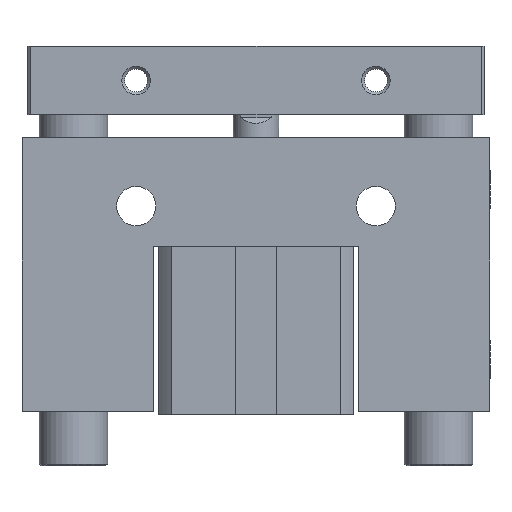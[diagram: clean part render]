
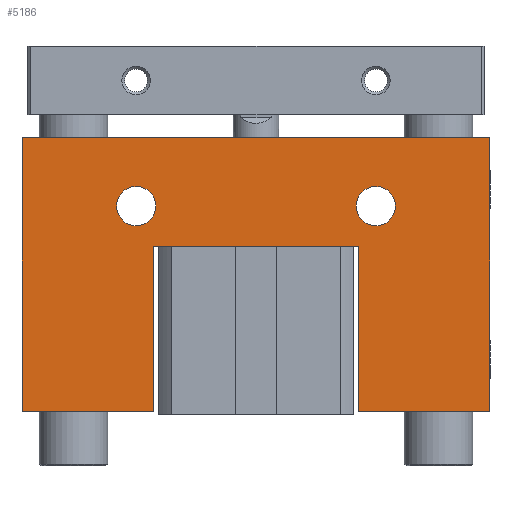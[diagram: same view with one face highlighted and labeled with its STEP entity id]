
A CAD part, front view. The second image highlights one B-rep face of the part: STEP entity #5186.
In plain terms, the highlighted planar face has unit normal (0, -1, 0).
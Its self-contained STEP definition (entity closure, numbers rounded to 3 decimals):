
#2112=CARTESIAN_POINT('',(-17.76,-16.817,0.5));
#2113=VERTEX_POINT('',#2112);
#2114=CARTESIAN_POINT('',(-40.76,-16.817,0.5));
#2115=VERTEX_POINT('',#2114);
#2116=CARTESIAN_POINT('',(-17.76,-16.817,0.5));
#2117=DIRECTION('',(-1.0,0.0,0.0));
#2118=VECTOR('',#2117,23.);
#2119=LINE('',#2116,#2118);
#2120=EDGE_CURVE('',#2113,#2115,#2119,.T.);
#2203=CARTESIAN_POINT('',(41.24,-16.817,0.5));
#2204=VERTEX_POINT('',#2203);
#2205=CARTESIAN_POINT('',(18.24,-16.817,0.5));
#2206=VERTEX_POINT('',#2205);
#2207=CARTESIAN_POINT('',(41.24,-16.817,0.5));
#2208=DIRECTION('',(-1.0,0.0,0.0));
#2209=VECTOR('',#2208,23.0);
#2210=LINE('',#2207,#2209);
#2211=EDGE_CURVE('',#2204,#2206,#2210,.T.);
#2266=CARTESIAN_POINT('',(-40.76,-16.817,48.5));
#2267=VERTEX_POINT('',#2266);
#2268=CARTESIAN_POINT('',(41.24,-16.817,48.5));
#2269=VERTEX_POINT('',#2268);
#2270=CARTESIAN_POINT('',(-40.76,-16.817,48.5));
#2271=DIRECTION('',(1.0,0.0,0.0));
#2272=VECTOR('',#2271,82.);
#2273=LINE('',#2270,#2272);
#2274=EDGE_CURVE('',#2267,#2269,#2273,.T.);
#4418=CARTESIAN_POINT('',(17.79,-16.817,36.5));
#4419=VERTEX_POINT('',#4418);
#4420=CARTESIAN_POINT('',(21.24,-16.817,36.5));
#4421=DIRECTION('',(0.0,1.0,0.0));
#4422=DIRECTION('',(1.0,0.0,0.0));
#4423=AXIS2_PLACEMENT_3D('',#4420,#4421,#4422);
#4424=CIRCLE('',#4423,3.45);
#4425=EDGE_CURVE('',#4419,#4419,#4424,.T.);
#4528=CARTESIAN_POINT('',(-24.21,-16.817,36.5));
#4529=VERTEX_POINT('',#4528);
#4530=CARTESIAN_POINT('',(-20.76,-16.817,36.5));
#4531=DIRECTION('',(0.0,1.0,0.0));
#4532=DIRECTION('',(1.0,0.0,0.0));
#4533=AXIS2_PLACEMENT_3D('',#4530,#4531,#4532);
#4534=CIRCLE('',#4533,3.45);
#4535=EDGE_CURVE('',#4529,#4529,#4534,.T.);
#4588=CARTESIAN_POINT('',(18.24,-16.817,29.5));
#4589=VERTEX_POINT('',#4588);
#4590=CARTESIAN_POINT('',(-17.76,-16.817,29.5));
#4591=VERTEX_POINT('',#4590);
#4592=CARTESIAN_POINT('',(18.24,-16.817,29.5));
#4593=DIRECTION('',(-1.0,0.0,0.0));
#4594=VECTOR('',#4593,36.0);
#4595=LINE('',#4592,#4594);
#4596=EDGE_CURVE('',#4589,#4591,#4595,.T.);
#5078=CARTESIAN_POINT('',(41.24,-16.817,48.5));
#5079=DIRECTION('',(0.0,0.0,-1.0));
#5080=VECTOR('',#5079,48.);
#5081=LINE('',#5078,#5080);
#5082=EDGE_CURVE('',#2269,#2204,#5081,.T.);
#5107=CARTESIAN_POINT('',(18.24,-16.817,0.5));
#5108=DIRECTION('',(0.0,0.0,1.0));
#5109=VECTOR('',#5108,29.);
#5110=LINE('',#5107,#5109);
#5111=EDGE_CURVE('',#2206,#4589,#5110,.T.);
#5124=CARTESIAN_POINT('',(-17.76,-16.817,29.5));
#5125=DIRECTION('',(0.0,0.0,-1.0));
#5126=VECTOR('',#5125,29.);
#5127=LINE('',#5124,#5126);
#5128=EDGE_CURVE('',#4591,#2113,#5127,.T.);
#5141=CARTESIAN_POINT('',(-40.76,-16.817,0.5));
#5142=DIRECTION('',(0.0,0.0,1.0));
#5143=VECTOR('',#5142,48.);
#5144=LINE('',#5141,#5143);
#5145=EDGE_CURVE('',#2115,#2267,#5144,.T.);
#5165=CARTESIAN_POINT('',(0.24,-16.817,26.05));
#5166=DIRECTION('',(0.0,1.0,0.0));
#5167=DIRECTION('',(0.0,0.0,1.0));
#5168=AXIS2_PLACEMENT_3D('',#5165,#5166,#5167);
#5169=PLANE('',#5168);
#5170=ORIENTED_EDGE('',*,*,#5082,.F.);
#5171=ORIENTED_EDGE('',*,*,#2274,.F.);
#5172=ORIENTED_EDGE('',*,*,#5145,.F.);
#5173=ORIENTED_EDGE('',*,*,#2120,.F.);
#5174=ORIENTED_EDGE('',*,*,#5128,.F.);
#5175=ORIENTED_EDGE('',*,*,#4596,.F.);
#5176=ORIENTED_EDGE('',*,*,#5111,.F.);
#5177=ORIENTED_EDGE('',*,*,#2211,.F.);
#5178=EDGE_LOOP('',(#5170,#5171,#5172,#5173,#5174,#5175,#5176,#5177));
#5179=FACE_OUTER_BOUND('',#5178,.T.);
#5180=ORIENTED_EDGE('',*,*,#4425,.T.);
#5181=EDGE_LOOP('',(#5180));
#5182=FACE_BOUND('',#5181,.T.);
#5183=ORIENTED_EDGE('',*,*,#4535,.T.);
#5184=EDGE_LOOP('',(#5183));
#5185=FACE_BOUND('',#5184,.T.);
#5186=ADVANCED_FACE('',(#5179,#5182,#5185),#5169,.F.);
